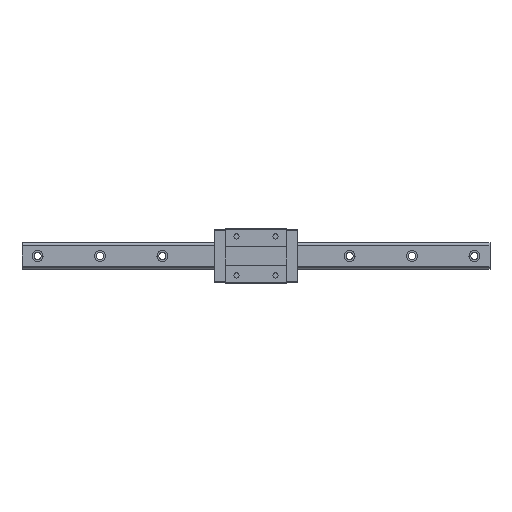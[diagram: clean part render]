
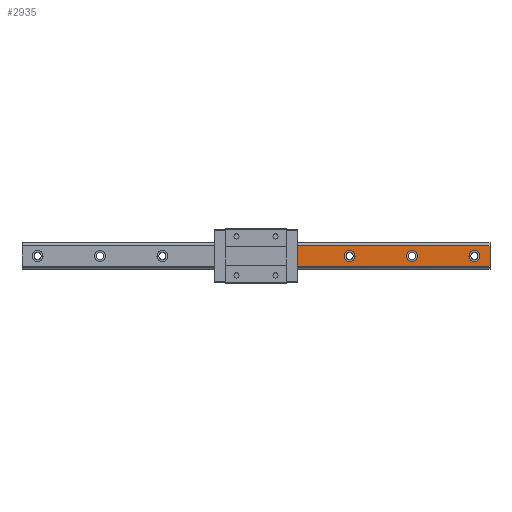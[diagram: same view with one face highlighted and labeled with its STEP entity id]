
A CAD part, top view. The second image highlights one B-rep face of the part: STEP entity #2935.
In plain terms, the highlighted planar face has unit normal (0, 0, 1).
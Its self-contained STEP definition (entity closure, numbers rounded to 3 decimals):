
#57 = VECTOR ( 'NONE', #593, 1000. ) ;
#93 = DIRECTION ( 'NONE',  ( 0., 0., -1. ) ) ;
#104 = VERTEX_POINT ( 'NONE', #2578 ) ;
#289 = CIRCLE ( 'NONE', #1772, 7. ) ;
#317 = ORIENTED_EDGE ( 'NONE', *, *, #5076, .T. ) ;
#450 = CARTESIAN_POINT ( 'NONE',  ( 200., 0., 26. ) ) ;
#525 = CARTESIAN_POINT ( 'NONE',  ( 300., 0., 26. ) ) ;
#593 = DIRECTION ( 'NONE',  ( 0., -1., 0. ) ) ;
#632 = VECTOR ( 'NONE', #2911, 1000. ) ;
#640 = CARTESIAN_POINT ( 'NONE',  ( 207., 0., 26. ) ) ;
#688 = VERTEX_POINT ( 'NONE', #4424 ) ;
#715 = CARTESIAN_POINT ( 'NONE',  ( 300., -13.408, 26. ) ) ;
#763 = CARTESIAN_POINT ( 'NONE',  ( 280., 0., 26. ) ) ;
#845 = ORIENTED_EDGE ( 'NONE', *, *, #3437, .T. ) ;
#848 = EDGE_CURVE ( 'NONE', #3769, #3613, #5281, .T. ) ;
#908 = CARTESIAN_POINT ( 'NONE',  ( 280., 0., 26. ) ) ;
#948 = CARTESIAN_POINT ( 'NONE',  ( 287., 0., 26. ) ) ;
#962 = CARTESIAN_POINT ( 'NONE',  ( 300., 13.6, 26. ) ) ;
#995 = ORIENTED_EDGE ( 'NONE', *, *, #848, .F. ) ;
#1022 = AXIS2_PLACEMENT_3D ( 'NONE', #763, #1889, #4795 ) ;
#1027 = EDGE_CURVE ( 'NONE', #3769, #688, #2779, .T. ) ;
#1141 = CARTESIAN_POINT ( 'NONE',  ( 273., 0., 26. ) ) ;
#1326 = CARTESIAN_POINT ( 'NONE',  ( 53.7, -13.408, 26. ) ) ;
#1361 = DIRECTION ( 'NONE',  ( 0., 0., -1. ) ) ;
#1460 = EDGE_CURVE ( 'NONE', #1682, #3613, #5333, .T. ) ;
#1597 = EDGE_LOOP ( 'NONE', ( #1787, #317 ) ) ;
#1610 = AXIS2_PLACEMENT_3D ( 'NONE', #908, #2632, #2607 ) ;
#1614 = CIRCLE ( 'NONE', #1881, 7. ) ;
#1629 = CIRCLE ( 'NONE', #3674, 7. ) ;
#1682 = VERTEX_POINT ( 'NONE', #3914 ) ;
#1765 = VECTOR ( 'NONE', #3074, 1000. ) ;
#1772 = AXIS2_PLACEMENT_3D ( 'NONE', #2142, #1361, #1840 ) ;
#1787 = ORIENTED_EDGE ( 'NONE', *, *, #2965, .T. ) ;
#1795 = CARTESIAN_POINT ( 'NONE',  ( 120., 0., 26. ) ) ;
#1840 = DIRECTION ( 'NONE',  ( -1., 0., 0. ) ) ;
#1861 = VERTEX_POINT ( 'NONE', #1141 ) ;
#1881 = AXIS2_PLACEMENT_3D ( 'NONE', #450, #2144, #3756 ) ;
#1889 = DIRECTION ( 'NONE',  ( 0., 0., -1. ) ) ;
#1966 = CARTESIAN_POINT ( 'NONE',  ( 127., 0., 26. ) ) ;
#2075 = EDGE_CURVE ( 'NONE', #4797, #4743, #289, .T. ) ;
#2142 = CARTESIAN_POINT ( 'NONE',  ( 200., 0., 26. ) ) ;
#2144 = DIRECTION ( 'NONE',  ( 0., 0., -1. ) ) ;
#2149 = ORIENTED_EDGE ( 'NONE', *, *, #5252, .F. ) ;
#2209 = FACE_BOUND ( 'NONE', #3302, .T. ) ;
#2317 = ORIENTED_EDGE ( 'NONE', *, *, #1460, .T. ) ;
#2361 = EDGE_CURVE ( 'NONE', #3290, #104, #3400, .T. ) ;
#2500 = ORIENTED_EDGE ( 'NONE', *, *, #2361, .T. ) ;
#2578 = CARTESIAN_POINT ( 'NONE',  ( 113., 0., 26. ) ) ;
#2607 = DIRECTION ( 'NONE',  ( -1., 0., 0. ) ) ;
#2632 = DIRECTION ( 'NONE',  ( 0., 0., -1. ) ) ;
#2636 = CIRCLE ( 'NONE', #1610, 7. ) ;
#2692 = DIRECTION ( 'NONE',  ( -1., 0., 0. ) ) ;
#2718 = AXIS2_PLACEMENT_3D ( 'NONE', #525, #93, #4606 ) ;
#2745 = CIRCLE ( 'NONE', #1022, 7. ) ;
#2779 = LINE ( 'NONE', #715, #1765 ) ;
#2911 = DIRECTION ( 'NONE',  ( 0., 1., 0. ) ) ;
#2935 = ADVANCED_FACE ( 'NONE', ( #2958, #2209, #3819, #4684 ), #3018, .F. ) ;
#2958 = FACE_BOUND ( 'NONE', #1597, .T. ) ;
#2965 = EDGE_CURVE ( 'NONE', #3833, #1861, #2636, .T. ) ;
#3018 = PLANE ( 'NONE',  #2718 ) ;
#3074 = DIRECTION ( 'NONE',  ( 1., 0., 0. ) ) ;
#3102 = CARTESIAN_POINT ( 'NONE',  ( 120., 0., 26. ) ) ;
#3134 = CARTESIAN_POINT ( 'NONE',  ( 193., 0., 26. ) ) ;
#3257 = EDGE_CURVE ( 'NONE', #4743, #4797, #1614, .T. ) ;
#3275 = ORIENTED_EDGE ( 'NONE', *, *, #1027, .T. ) ;
#3281 = CARTESIAN_POINT ( 'NONE',  ( 53.7, -13.408, 26. ) ) ;
#3290 = VERTEX_POINT ( 'NONE', #1966 ) ;
#3296 = CARTESIAN_POINT ( 'NONE',  ( 300., 13.408, 26. ) ) ;
#3302 = EDGE_LOOP ( 'NONE', ( #4109, #3874 ) ) ;
#3314 = AXIS2_PLACEMENT_3D ( 'NONE', #3102, #4750, #2692 ) ;
#3400 = CIRCLE ( 'NONE', #3314, 7. ) ;
#3430 = DIRECTION ( 'NONE',  ( 0., 0., -1. ) ) ;
#3437 = EDGE_CURVE ( 'NONE', #104, #3290, #1629, .T. ) ;
#3493 = EDGE_LOOP ( 'NONE', ( #2500, #845 ) ) ;
#3613 = VERTEX_POINT ( 'NONE', #4460 ) ;
#3674 = AXIS2_PLACEMENT_3D ( 'NONE', #1795, #3430, #5080 ) ;
#3756 = DIRECTION ( 'NONE',  ( -1., 0., 0. ) ) ;
#3760 = DIRECTION ( 'NONE',  ( -1., 0., 0. ) ) ;
#3769 = VERTEX_POINT ( 'NONE', #1326 ) ;
#3819 = FACE_BOUND ( 'NONE', #3493, .T. ) ;
#3833 = VERTEX_POINT ( 'NONE', #948 ) ;
#3874 = ORIENTED_EDGE ( 'NONE', *, *, #3257, .T. ) ;
#3894 = LINE ( 'NONE', #962, #57 ) ;
#3914 = CARTESIAN_POINT ( 'NONE',  ( 300., 13.408, 26. ) ) ;
#4109 = ORIENTED_EDGE ( 'NONE', *, *, #2075, .T. ) ;
#4424 = CARTESIAN_POINT ( 'NONE',  ( 300., -13.408, 26. ) ) ;
#4460 = CARTESIAN_POINT ( 'NONE',  ( 53.7, 13.408, 26. ) ) ;
#4606 = DIRECTION ( 'NONE',  ( 0., -1., 0. ) ) ;
#4684 = FACE_OUTER_BOUND ( 'NONE', #4853, .T. ) ;
#4743 = VERTEX_POINT ( 'NONE', #3134 ) ;
#4750 = DIRECTION ( 'NONE',  ( 0., 0., -1. ) ) ;
#4795 = DIRECTION ( 'NONE',  ( -1., 0., 0. ) ) ;
#4797 = VERTEX_POINT ( 'NONE', #640 ) ;
#4853 = EDGE_LOOP ( 'NONE', ( #2317, #995, #3275, #2149 ) ) ;
#5076 = EDGE_CURVE ( 'NONE', #1861, #3833, #2745, .T. ) ;
#5080 = DIRECTION ( 'NONE',  ( -1., 0., 0. ) ) ;
#5252 = EDGE_CURVE ( 'NONE', #1682, #688, #3894, .T. ) ;
#5281 = LINE ( 'NONE', #3281, #632 ) ;
#5293 = VECTOR ( 'NONE', #3760, 1000. ) ;
#5333 = LINE ( 'NONE', #3296, #5293 ) ;
